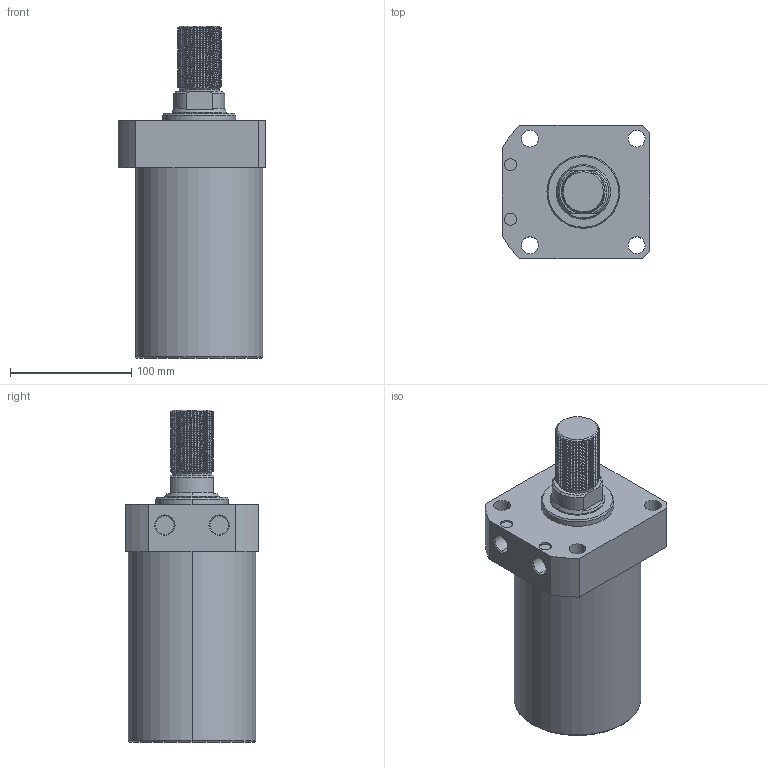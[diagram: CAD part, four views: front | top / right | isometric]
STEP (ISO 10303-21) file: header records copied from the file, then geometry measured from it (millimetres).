
FILE_DESCRIPTION (( 'STEP AP214' ), '1' );
FILE_NAME ('CLLR-105CT-110.STEP', '2020-01-10T05:53:59', ( 'Windows' ), ( 'Microsoft' ), 'SwSTEP 2.0', 'SolidWorks 2015', '' );
FILE_SCHEMA (( 'AUTOMOTIVE_DESIGN' ));
Length unit declared in the file: millimetre
Products named in the file (1): CLLR-105CT-110
Bounding box: 122 x 110 x 274 mm (x, y, z)
Volume: 1932202.4 mm3; surface area: 115806.9 mm2
Topology: 1 solids, 1 shells, 135 faces, 361 edges, 236 vertices
Faces by surface type: cylinder 96, plane 20, cone 15, torus 2, bspline 2
Entity records: 8190 total; most frequent: CARTESIAN_POINT 5086, ORIENTED_EDGE 722, DIRECTION 560, EDGE_CURVE 361, VERTEX_POINT 236, AXIS2_PLACEMENT_3D 214, EDGE_LOOP 151, FACE_OUTER_BOUND 135
